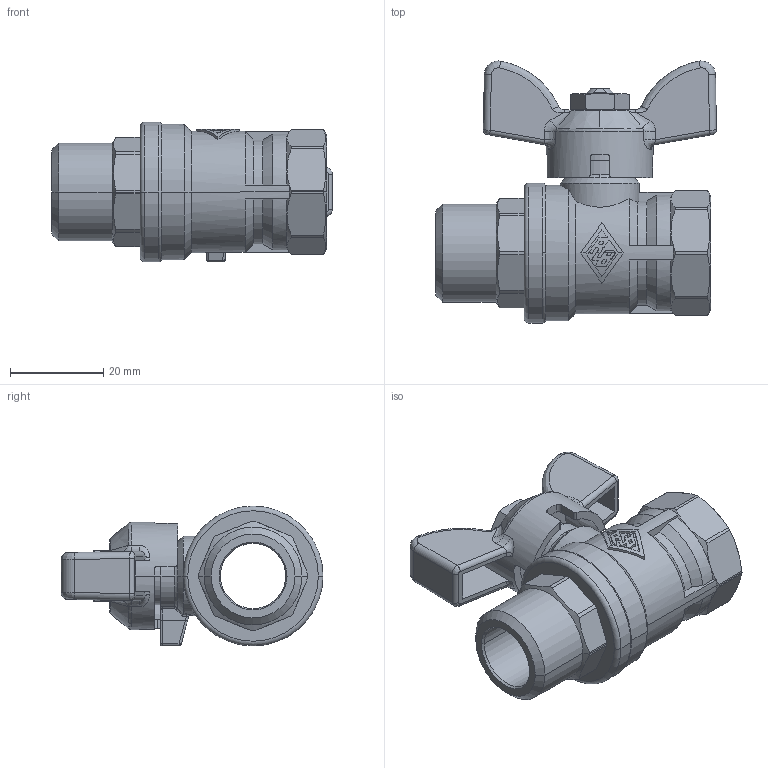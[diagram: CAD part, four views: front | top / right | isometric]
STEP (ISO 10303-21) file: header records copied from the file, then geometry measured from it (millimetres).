
FILE_DESCRIPTION(('OneSpaceDesigner STEP Export'),'2;1');
FILE_NAME('1521040000.stp','2009-04-22T17:02:26',(''),(''),'OneSpace Designer STEP processor for AP214 (Solid Model)','OneSpace Modeling 15.50C 25-Jan-2008 (C) CoCreate Software GmbH','');
FILE_SCHEMA(('AUTOMOTIVE_DESIGN { 1 0 10303 214 1 1 1 1 }'));
Length unit declared in the file: millimetre
Products named in the file (2): 1521040000
Assembly tree (1 placements, depth 2):
  1521040000
    1521040000
Bounding box: 60.25 x 56.2 x 30 mm (x, y, z)
Volume: 25848.6 mm3; surface area: 14158.2 mm2
Topology: 1 solids, 3 shells, 626 faces, 1669 edges, 1050 vertices
Faces by surface type: plane 246, cylinder 192, cone 111, bspline 49, torus 22, sphere 4, extrusion 2
Entity records: 33885 total; most frequent: CARTESIAN_POINT 18503, ORIENTED_EDGE 3326, DIRECTION 2241, EDGE_CURVE 1663, VERTEX_POINT 1050, AXIS2_PLACEMENT_3D 829, EDGE_LOOP 649, FACE_OUTER_BOUND 626
